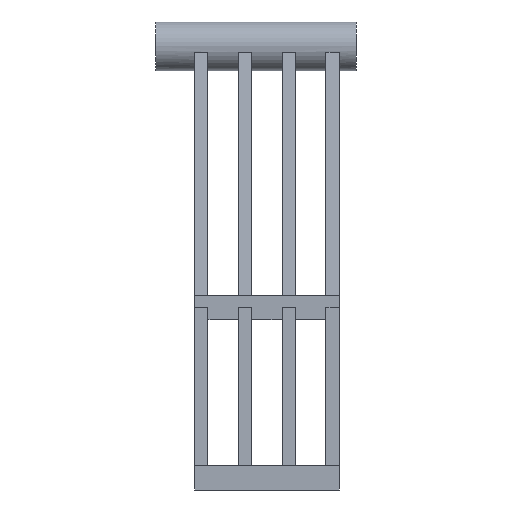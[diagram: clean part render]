
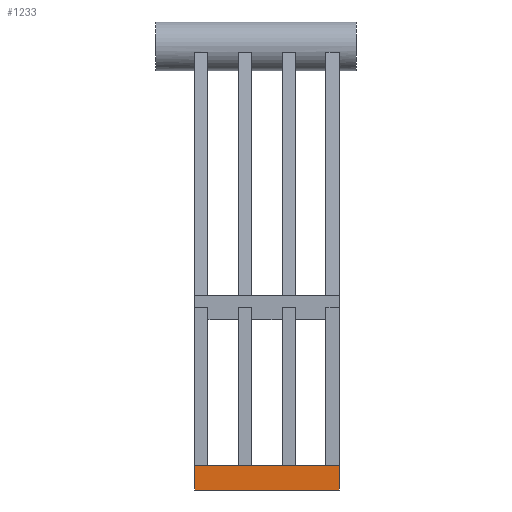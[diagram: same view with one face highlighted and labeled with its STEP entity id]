
A CAD part, front view. The second image highlights one B-rep face of the part: STEP entity #1233.
In plain terms, the highlighted planar face has unit normal (0, -1, 0).
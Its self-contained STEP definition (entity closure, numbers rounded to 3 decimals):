
#44 = PLANE('',#45);
#45 = AXIS2_PLACEMENT_3D('',#46,#47,#48);
#46 = CARTESIAN_POINT('',(-20.2,-13.049,-74.253));
#47 = DIRECTION('',(1.,0.,0.));
#48 = DIRECTION('',(-0.,0.,1.));
#72 = PLANE('',#73);
#73 = AXIS2_PLACEMENT_3D('',#74,#75,#76);
#74 = CARTESIAN_POINT('',(-20.2,-22.5,-146.));
#75 = DIRECTION('',(0.,0.,1.));
#76 = DIRECTION('',(0.,1.,0.));
#280 = VERTEX_POINT('',#281);
#281 = CARTESIAN_POINT('',(-20.2,-24.5,-138.));
#295 = PLANE('',#296);
#296 = AXIS2_PLACEMENT_3D('',#297,#298,#299);
#297 = CARTESIAN_POINT('',(-20.2,-24.5,-138.));
#298 = DIRECTION('',(0.,0.,1.));
#299 = DIRECTION('',(0.,1.,0.));
#307 = EDGE_CURVE('',#308,#280,#310,.T.);
#308 = VERTEX_POINT('',#309);
#309 = CARTESIAN_POINT('',(-20.2,-24.5,-146.));
#310 = SURFACE_CURVE('',#311,(#315,#322),.PCURVE_S1.);
#311 = LINE('',#312,#313);
#312 = CARTESIAN_POINT('',(-20.2,-24.5,-146.));
#313 = VECTOR('',#314,1.);
#314 = DIRECTION('',(0.,0.,1.));
#315 = PCURVE('',#44,#316);
#316 = DEFINITIONAL_REPRESENTATION('',(#317),#321);
#317 = LINE('',#318,#319);
#318 = CARTESIAN_POINT('',(-71.747,11.451));
#319 = VECTOR('',#320,1.);
#320 = DIRECTION('',(1.,0.));
#321 = ( GEOMETRIC_REPRESENTATION_CONTEXT(2) 
PARAMETRIC_REPRESENTATION_CONTEXT() REPRESENTATION_CONTEXT('2D SPACE',''
  ) );
#322 = PCURVE('',#323,#328);
#323 = PLANE('',#324);
#324 = AXIS2_PLACEMENT_3D('',#325,#326,#327);
#325 = CARTESIAN_POINT('',(-20.2,-24.5,-146.));
#326 = DIRECTION('',(0.,-1.,0.));
#327 = DIRECTION('',(0.,0.,1.));
#328 = DEFINITIONAL_REPRESENTATION('',(#329),#333);
#329 = LINE('',#330,#331);
#330 = CARTESIAN_POINT('',(0.,0.));
#331 = VECTOR('',#332,1.);
#332 = DIRECTION('',(1.,0.));
#333 = ( GEOMETRIC_REPRESENTATION_CONTEXT(2) 
PARAMETRIC_REPRESENTATION_CONTEXT() REPRESENTATION_CONTEXT('2D SPACE',''
  ) );
#487 = PLANE('',#488);
#488 = AXIS2_PLACEMENT_3D('',#489,#490,#491);
#489 = CARTESIAN_POINT('',(27.4,-20.5,-142.));
#490 = DIRECTION('',(-1.,-0.,-0.));
#491 = DIRECTION('',(0.,0.,-1.));
#1042 = EDGE_CURVE('',#308,#1043,#1045,.T.);
#1043 = VERTEX_POINT('',#1044);
#1044 = CARTESIAN_POINT('',(27.4,-24.5,-146.));
#1045 = SURFACE_CURVE('',#1046,(#1050,#1057),.PCURVE_S1.);
#1046 = LINE('',#1047,#1048);
#1047 = CARTESIAN_POINT('',(-20.2,-24.5,-146.));
#1048 = VECTOR('',#1049,1.);
#1049 = DIRECTION('',(1.,0.,0.));
#1050 = PCURVE('',#72,#1051);
#1051 = DEFINITIONAL_REPRESENTATION('',(#1052),#1056);
#1052 = LINE('',#1053,#1054);
#1053 = CARTESIAN_POINT('',(-2.,0.));
#1054 = VECTOR('',#1055,1.);
#1055 = DIRECTION('',(0.,-1.));
#1056 = ( GEOMETRIC_REPRESENTATION_CONTEXT(2) 
PARAMETRIC_REPRESENTATION_CONTEXT() REPRESENTATION_CONTEXT('2D SPACE',''
  ) );
#1057 = PCURVE('',#323,#1058);
#1058 = DEFINITIONAL_REPRESENTATION('',(#1059),#1063);
#1059 = LINE('',#1060,#1061);
#1060 = CARTESIAN_POINT('',(0.,0.));
#1061 = VECTOR('',#1062,1.);
#1062 = DIRECTION('',(0.,-1.));
#1063 = ( GEOMETRIC_REPRESENTATION_CONTEXT(2) 
PARAMETRIC_REPRESENTATION_CONTEXT() REPRESENTATION_CONTEXT('2D SPACE',''
  ) );
#1233 = ADVANCED_FACE('',(#1234),#323,.T.);
#1234 = FACE_BOUND('',#1235,.T.);
#1235 = EDGE_LOOP('',(#1236,#1237,#1260,#1281));
#1236 = ORIENTED_EDGE('',*,*,#1042,.T.);
#1237 = ORIENTED_EDGE('',*,*,#1238,.T.);
#1238 = EDGE_CURVE('',#1043,#1239,#1241,.T.);
#1239 = VERTEX_POINT('',#1240);
#1240 = CARTESIAN_POINT('',(27.4,-24.5,-138.));
#1241 = SURFACE_CURVE('',#1242,(#1246,#1253),.PCURVE_S1.);
#1242 = LINE('',#1243,#1244);
#1243 = CARTESIAN_POINT('',(27.4,-24.5,-146.));
#1244 = VECTOR('',#1245,1.);
#1245 = DIRECTION('',(0.,0.,1.));
#1246 = PCURVE('',#323,#1247);
#1247 = DEFINITIONAL_REPRESENTATION('',(#1248),#1252);
#1248 = LINE('',#1249,#1250);
#1249 = CARTESIAN_POINT('',(0.,-47.6));
#1250 = VECTOR('',#1251,1.);
#1251 = DIRECTION('',(1.,0.));
#1252 = ( GEOMETRIC_REPRESENTATION_CONTEXT(2) 
PARAMETRIC_REPRESENTATION_CONTEXT() REPRESENTATION_CONTEXT('2D SPACE',''
  ) );
#1253 = PCURVE('',#487,#1254);
#1254 = DEFINITIONAL_REPRESENTATION('',(#1255),#1259);
#1255 = LINE('',#1256,#1257);
#1256 = CARTESIAN_POINT('',(4.,4.));
#1257 = VECTOR('',#1258,1.);
#1258 = DIRECTION('',(-1.,0.));
#1259 = ( GEOMETRIC_REPRESENTATION_CONTEXT(2) 
PARAMETRIC_REPRESENTATION_CONTEXT() REPRESENTATION_CONTEXT('2D SPACE',''
  ) );
#1260 = ORIENTED_EDGE('',*,*,#1261,.F.);
#1261 = EDGE_CURVE('',#280,#1239,#1262,.T.);
#1262 = SURFACE_CURVE('',#1263,(#1267,#1274),.PCURVE_S1.);
#1263 = LINE('',#1264,#1265);
#1264 = CARTESIAN_POINT('',(-20.2,-24.5,-138.));
#1265 = VECTOR('',#1266,1.);
#1266 = DIRECTION('',(1.,0.,0.));
#1267 = PCURVE('',#323,#1268);
#1268 = DEFINITIONAL_REPRESENTATION('',(#1269),#1273);
#1269 = LINE('',#1270,#1271);
#1270 = CARTESIAN_POINT('',(8.,0.));
#1271 = VECTOR('',#1272,1.);
#1272 = DIRECTION('',(0.,-1.));
#1273 = ( GEOMETRIC_REPRESENTATION_CONTEXT(2) 
PARAMETRIC_REPRESENTATION_CONTEXT() REPRESENTATION_CONTEXT('2D SPACE',''
  ) );
#1274 = PCURVE('',#295,#1275);
#1275 = DEFINITIONAL_REPRESENTATION('',(#1276),#1280);
#1276 = LINE('',#1277,#1278);
#1277 = CARTESIAN_POINT('',(0.,0.));
#1278 = VECTOR('',#1279,1.);
#1279 = DIRECTION('',(0.,-1.));
#1280 = ( GEOMETRIC_REPRESENTATION_CONTEXT(2) 
PARAMETRIC_REPRESENTATION_CONTEXT() REPRESENTATION_CONTEXT('2D SPACE',''
  ) );
#1281 = ORIENTED_EDGE('',*,*,#307,.F.);
